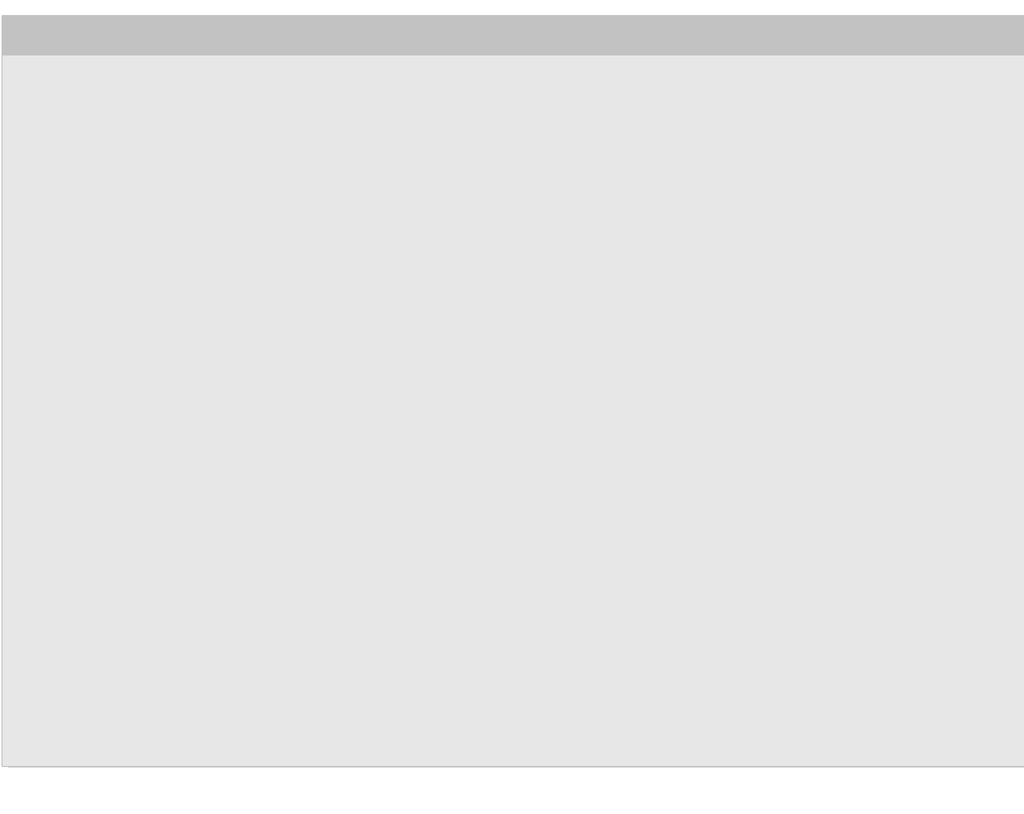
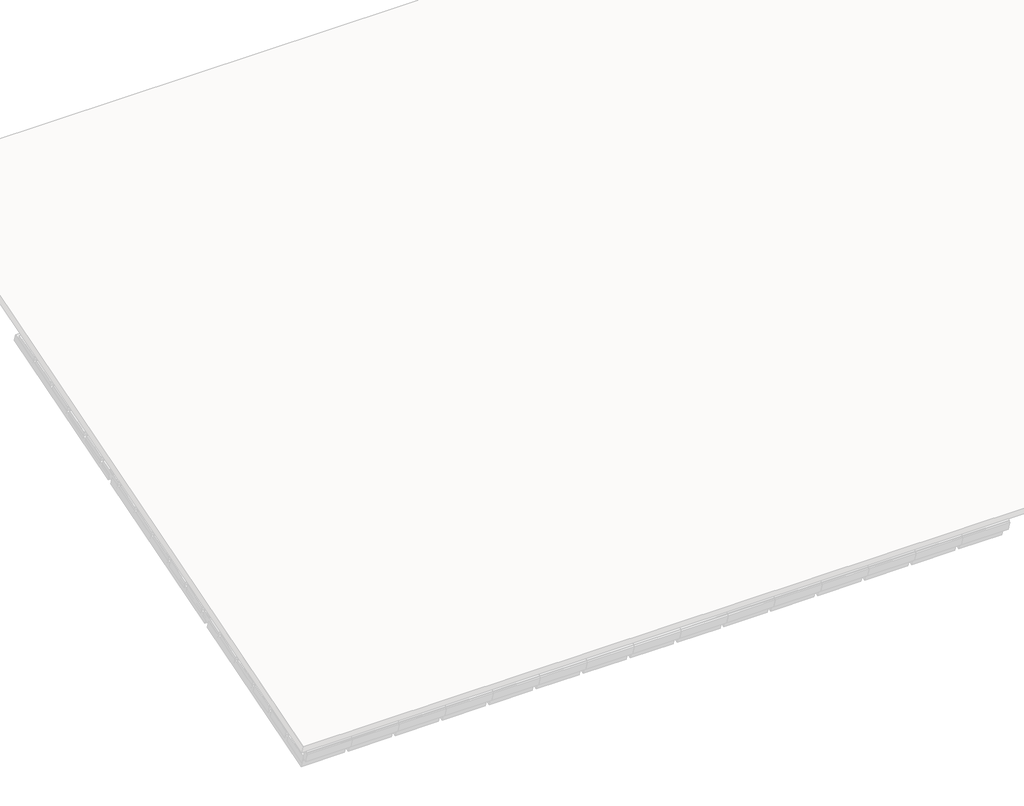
# One storey, part 10 of 57: 84 members, 40 plates.
"""IFC4 building model written with IfcOpenShell, lengths in millimetres."""

from ifc_helpers import new_model, si_unit, origin, place, context, project, spatial, transform, mapped, element, save
from components import rectangular_mullion_59984080, rectangular_mullion_2d2423ea, rectangular_mullion_caibro_e4384bba, rectangular_mullion_caibro_0993a3cf, empty_system_panel_vazio_178faf58, empty_system_panel_vazio_2c78850d

model = new_model("IFC4")

# Units and contexts
model_context = context("Model", 3, world=origin())
ifc_project = project(units=[si_unit("LENGTHUNIT", "METRE", prefix="MILLI")], contexts=[model_context])

# Site, building, storey
site = spatial("IfcSite", under=ifc_project)
building = spatial("IfcBuilding", under=site)
storey = spatial("IfcBuildingStorey", under=building, Name="Nível 2", Elevation=4100.0)

# Members
placement = place(None, origin())
rectangular_mullion_shape = rectangular_mullion_59984080(model_context)
element("IfcMember", 1, ObjectType="Rectangular Mullion : Ripa", at=placement, inside=storey, context=model_context, shape_type="MappedRepresentation", body=[
    mapped(rectangular_mullion_shape, transform((5359.0091907, 8162.5832694, 3598.8241594), x_axis=(0.0, 0.9578262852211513, 0.2873478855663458), y_axis=(0.0, 0.2873478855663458, -0.9578262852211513), z_axis=(-1.0, 0.0, 0.0))),
])
element("IfcMember", 2, ObjectType="Rectangular Mullion : Ripa", at=placement, inside=storey, context=model_context, shape_type="MappedRepresentation", body=[
    mapped(rectangular_mullion_shape, transform((5956.0639471, 8162.5832694, 3598.8241594), x_axis=(0.0, 0.9578262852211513, 0.2873478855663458), y_axis=(0.0, 0.2873478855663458, -0.9578262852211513), z_axis=(-1.0, 0.0, 0.0))),
])
element("IfcMember", 3, ObjectType="Rectangular Mullion : Ripa", at=placement, inside=storey, context=model_context, shape_type="MappedRepresentation", body=[
    mapped(rectangular_mullion_shape, transform((6553.1187036, 8162.5832694, 3598.8241594), x_axis=(0.0, 0.9578262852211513, 0.2873478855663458), y_axis=(0.0, 0.2873478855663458, -0.9578262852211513), z_axis=(-1.0, 0.0, 0.0))),
])
element("IfcMember", 4, ObjectType="Rectangular Mullion : Ripa", at=placement, inside=storey, context=model_context, shape_type="MappedRepresentation", body=[
    mapped(rectangular_mullion_shape, transform((7150.17346, 8162.5832694, 3598.8241594), x_axis=(0.0, 0.9578262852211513, 0.2873478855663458), y_axis=(0.0, 0.2873478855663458, -0.9578262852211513), z_axis=(-1.0, 0.0, 0.0))),
])
element("IfcMember", 5, ObjectType="Rectangular Mullion : Ripa", at=placement, inside=storey, context=model_context, shape_type="MappedRepresentation", body=[
    mapped(rectangular_mullion_shape, transform((7747.2282164, 8162.5832694, 3598.8241594), x_axis=(0.0, 0.9578262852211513, 0.2873478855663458), y_axis=(0.0, 0.2873478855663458, -0.9578262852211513), z_axis=(-1.0, 0.0, 0.0))),
])
element("IfcMember", 6, ObjectType="Rectangular Mullion : Ripa", at=placement, inside=storey, context=model_context, shape_type="MappedRepresentation", body=[
    mapped(rectangular_mullion_shape, transform((5359.0091907, 8532.7605281, 3709.877337), x_axis=(0.0, 0.9578262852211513, 0.2873478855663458), y_axis=(0.0, 0.2873478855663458, -0.9578262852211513), z_axis=(-1.0, 0.0, 0.0))),
])
element("IfcMember", 7, ObjectType="Rectangular Mullion : Ripa", at=placement, inside=storey, context=model_context, shape_type="MappedRepresentation", body=[
    mapped(rectangular_mullion_shape, transform((5956.0639471, 8532.7605281, 3709.877337), x_axis=(0.0, 0.9578262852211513, 0.2873478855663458), y_axis=(0.0, 0.2873478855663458, -0.9578262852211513), z_axis=(-1.0, 0.0, 0.0))),
])
element("IfcMember", 8, ObjectType="Rectangular Mullion : Ripa", at=placement, inside=storey, context=model_context, shape_type="MappedRepresentation", body=[
    mapped(rectangular_mullion_shape, transform((6553.1187036, 8532.7605281, 3709.877337), x_axis=(0.0, 0.9578262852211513, 0.2873478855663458), y_axis=(0.0, 0.2873478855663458, -0.9578262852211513), z_axis=(-1.0, 0.0, 0.0))),
])
element("IfcMember", 9, ObjectType="Rectangular Mullion : Ripa", at=placement, inside=storey, context=model_context, shape_type="MappedRepresentation", body=[
    mapped(rectangular_mullion_shape, transform((7150.17346, 8532.7605281, 3709.877337), x_axis=(0.0, 0.9578262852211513, 0.2873478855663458), y_axis=(0.0, 0.2873478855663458, -0.9578262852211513), z_axis=(-1.0, 0.0, 0.0))),
])
element("IfcMember", 10, ObjectType="Rectangular Mullion : Ripa", at=placement, inside=storey, context=model_context, shape_type="MappedRepresentation", body=[
    mapped(rectangular_mullion_shape, transform((7747.2282164, 8532.7605281, 3709.877337), x_axis=(0.0, 0.9578262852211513, 0.2873478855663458), y_axis=(0.0, 0.2873478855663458, -0.9578262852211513), z_axis=(-1.0, 0.0, 0.0))),
])
element("IfcMember", 11, ObjectType="Rectangular Mullion : Ripa", at=placement, inside=storey, context=model_context, shape_type="MappedRepresentation", body=[
    mapped(rectangular_mullion_shape, transform((5359.0091907, 8902.9377868, 3820.9305146), x_axis=(0.0, 0.9578262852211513, 0.2873478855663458), y_axis=(0.0, 0.2873478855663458, -0.9578262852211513), z_axis=(-1.0, 0.0, 0.0))),
])
element("IfcMember", 12, ObjectType="Rectangular Mullion : Ripa", at=placement, inside=storey, context=model_context, shape_type="MappedRepresentation", body=[
    mapped(rectangular_mullion_shape, transform((5956.0639471, 8902.9377868, 3820.9305146), x_axis=(0.0, 0.9578262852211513, 0.2873478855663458), y_axis=(0.0, 0.2873478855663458, -0.9578262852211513), z_axis=(-1.0, 0.0, 0.0))),
])
element("IfcMember", 13, ObjectType="Rectangular Mullion : Ripa", at=placement, inside=storey, context=model_context, shape_type="MappedRepresentation", body=[
    mapped(rectangular_mullion_shape, transform((6553.1187036, 8902.9377868, 3820.9305146), x_axis=(0.0, 0.9578262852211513, 0.2873478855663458), y_axis=(0.0, 0.2873478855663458, -0.9578262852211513), z_axis=(-1.0, 0.0, 0.0))),
])
element("IfcMember", 14, ObjectType="Rectangular Mullion : Ripa", at=placement, inside=storey, context=model_context, shape_type="MappedRepresentation", body=[
    mapped(rectangular_mullion_shape, transform((7150.17346, 8902.9377868, 3820.9305146), x_axis=(0.0, 0.9578262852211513, 0.2873478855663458), y_axis=(0.0, 0.2873478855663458, -0.9578262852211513), z_axis=(-1.0, 0.0, 0.0))),
])
element("IfcMember", 15, ObjectType="Rectangular Mullion : Ripa", at=placement, inside=storey, context=model_context, shape_type="MappedRepresentation", body=[
    mapped(rectangular_mullion_shape, transform((7747.2282164, 8902.9377868, 3820.9305146), x_axis=(0.0, 0.9578262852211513, 0.2873478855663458), y_axis=(0.0, 0.2873478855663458, -0.9578262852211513), z_axis=(-1.0, 0.0, 0.0))),
])
element("IfcMember", 16, ObjectType="Rectangular Mullion : Ripa", at=placement, inside=storey, context=model_context, shape_type="MappedRepresentation", body=[
    mapped(rectangular_mullion_shape, transform((4164.8996779, 9273.1150454, 3931.9836922), x_axis=(0.0, 0.9578262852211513, 0.2873478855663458), y_axis=(0.0, 0.2873478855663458, -0.9578262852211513), z_axis=(-1.0, 0.0, 0.0))),
])
element("IfcMember", 17, ObjectType="Rectangular Mullion : Ripa", at=placement, inside=storey, context=model_context, shape_type="MappedRepresentation", body=[
    mapped(rectangular_mullion_shape, transform((4761.9544343, 9273.1150454, 3931.9836922), x_axis=(0.0, 0.9578262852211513, 0.2873478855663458), y_axis=(0.0, 0.2873478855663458, -0.9578262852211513), z_axis=(-1.0, 0.0, 0.0))),
])
element("IfcMember", 18, ObjectType="Rectangular Mullion : Ripa", at=placement, inside=storey, context=model_context, shape_type="MappedRepresentation", body=[
    mapped(rectangular_mullion_shape, transform((5359.0091907, 9273.1150454, 3931.9836922), x_axis=(0.0, 0.9578262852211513, 0.2873478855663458), y_axis=(0.0, 0.2873478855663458, -0.9578262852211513), z_axis=(-1.0, 0.0, 0.0))),
])
element("IfcMember", 19, ObjectType="Rectangular Mullion : Ripa", at=placement, inside=storey, context=model_context, shape_type="MappedRepresentation", body=[
    mapped(rectangular_mullion_shape, transform((5956.0639471, 9273.1150454, 3931.9836922), x_axis=(0.0, 0.9578262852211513, 0.2873478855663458), y_axis=(0.0, 0.2873478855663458, -0.9578262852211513), z_axis=(-1.0, 0.0, 0.0))),
])
element("IfcMember", 20, ObjectType="Rectangular Mullion : Ripa", at=placement, inside=storey, context=model_context, shape_type="MappedRepresentation", body=[
    mapped(rectangular_mullion_shape, transform((6553.1187036, 9273.1150454, 3931.9836922), x_axis=(0.0, 0.9578262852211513, 0.2873478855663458), y_axis=(0.0, 0.2873478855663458, -0.9578262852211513), z_axis=(-1.0, 0.0, 0.0))),
])
element("IfcMember", 21, ObjectType="Rectangular Mullion : Ripa", at=placement, inside=storey, context=model_context, shape_type="MappedRepresentation", body=[
    mapped(rectangular_mullion_shape, transform((7150.17346, 9273.1150454, 3931.9836922), x_axis=(0.0, 0.9578262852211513, 0.2873478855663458), y_axis=(0.0, 0.2873478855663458, -0.9578262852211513), z_axis=(-1.0, 0.0, 0.0))),
])
element("IfcMember", 22, ObjectType="Rectangular Mullion : Ripa", at=placement, inside=storey, context=model_context, shape_type="MappedRepresentation", body=[
    mapped(rectangular_mullion_shape, transform((7747.2282164, 9273.1150454, 3931.9836922), x_axis=(0.0, 0.9578262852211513, 0.2873478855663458), y_axis=(0.0, 0.2873478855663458, -0.9578262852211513), z_axis=(-1.0, 0.0, 0.0))),
])
element("IfcMember", 23, ObjectType="Rectangular Mullion : Ripa", at=placement, inside=storey, context=model_context, shape_type="MappedRepresentation", body=[
    mapped(rectangular_mullion_shape, transform((4164.8996779, 9643.2923041, 4043.0368698), x_axis=(0.0, 0.9578262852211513, 0.2873478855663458), y_axis=(0.0, 0.2873478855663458, -0.9578262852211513), z_axis=(-1.0, 0.0, 0.0))),
])
element("IfcMember", 24, ObjectType="Rectangular Mullion : Ripa", at=placement, inside=storey, context=model_context, shape_type="MappedRepresentation", body=[
    mapped(rectangular_mullion_shape, transform((4761.9544343, 9643.2923041, 4043.0368698), x_axis=(0.0, 0.9578262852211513, 0.2873478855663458), y_axis=(0.0, 0.2873478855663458, -0.9578262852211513), z_axis=(-1.0, 0.0, 0.0))),
])
element("IfcMember", 25, ObjectType="Rectangular Mullion : Ripa", at=placement, inside=storey, context=model_context, shape_type="MappedRepresentation", body=[
    mapped(rectangular_mullion_shape, transform((5359.0091907, 9643.2923041, 4043.0368698), x_axis=(0.0, 0.9578262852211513, 0.2873478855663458), y_axis=(0.0, 0.2873478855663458, -0.9578262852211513), z_axis=(-1.0, 0.0, 0.0))),
])
element("IfcMember", 26, ObjectType="Rectangular Mullion : Ripa", at=placement, inside=storey, context=model_context, shape_type="MappedRepresentation", body=[
    mapped(rectangular_mullion_shape, transform((5956.0639471, 9643.2923041, 4043.0368698), x_axis=(0.0, 0.9578262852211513, 0.2873478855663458), y_axis=(0.0, 0.2873478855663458, -0.9578262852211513), z_axis=(-1.0, 0.0, 0.0))),
])
element("IfcMember", 27, ObjectType="Rectangular Mullion : Ripa", at=placement, inside=storey, context=model_context, shape_type="MappedRepresentation", body=[
    mapped(rectangular_mullion_shape, transform((6553.1187036, 9643.2923041, 4043.0368698), x_axis=(0.0, 0.9578262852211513, 0.2873478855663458), y_axis=(0.0, 0.2873478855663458, -0.9578262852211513), z_axis=(-1.0, 0.0, 0.0))),
])
element("IfcMember", 28, ObjectType="Rectangular Mullion : Ripa", at=placement, inside=storey, context=model_context, shape_type="MappedRepresentation", body=[
    mapped(rectangular_mullion_shape, transform((7150.17346, 9643.2923041, 4043.0368698), x_axis=(0.0, 0.9578262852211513, 0.2873478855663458), y_axis=(0.0, 0.2873478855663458, -0.9578262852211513), z_axis=(-1.0, 0.0, 0.0))),
])
element("IfcMember", 29, ObjectType="Rectangular Mullion : Ripa", at=placement, inside=storey, context=model_context, shape_type="MappedRepresentation", body=[
    mapped(rectangular_mullion_shape, transform((7747.2282164, 9643.2923041, 4043.0368698), x_axis=(0.0, 0.9578262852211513, 0.2873478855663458), y_axis=(0.0, 0.2873478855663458, -0.9578262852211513), z_axis=(-1.0, 0.0, 0.0))),
])
element("IfcMember", 30, ObjectType="Rectangular Mullion : Ripa", at=placement, inside=storey, context=model_context, shape_type="MappedRepresentation", body=[
    mapped(rectangular_mullion_shape, transform((4164.8996779, 10013.4695628, 4154.0900474), x_axis=(0.0, 0.9578262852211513, 0.2873478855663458), y_axis=(0.0, 0.2873478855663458, -0.9578262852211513), z_axis=(-1.0, 0.0, 0.0))),
])
element("IfcMember", 31, ObjectType="Rectangular Mullion : Ripa", at=placement, inside=storey, context=model_context, shape_type="MappedRepresentation", body=[
    mapped(rectangular_mullion_shape, transform((4761.9544343, 10013.4695628, 4154.0900474), x_axis=(0.0, 0.9578262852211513, 0.2873478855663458), y_axis=(0.0, 0.2873478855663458, -0.9578262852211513), z_axis=(-1.0, 0.0, 0.0))),
])
element("IfcMember", 32, ObjectType="Rectangular Mullion : Ripa", at=placement, inside=storey, context=model_context, shape_type="MappedRepresentation", body=[
    mapped(rectangular_mullion_shape, transform((4164.8996779, 10383.6468214, 4265.143225), x_axis=(0.0, 0.9578262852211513, 0.2873478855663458), y_axis=(0.0, 0.2873478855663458, -0.9578262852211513), z_axis=(-1.0, 0.0, 0.0))),
])
element("IfcMember", 33, ObjectType="Rectangular Mullion : Ripa", at=placement, inside=storey, context=model_context, shape_type="MappedRepresentation", body=[
    mapped(rectangular_mullion_shape, transform((4761.9544343, 10383.6468214, 4265.143225), x_axis=(0.0, 0.9578262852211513, 0.2873478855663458), y_axis=(0.0, 0.2873478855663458, -0.9578262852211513), z_axis=(-1.0, 0.0, 0.0))),
])
element("IfcMember", 34, ObjectType="Rectangular Mullion : Ripa", at=placement, inside=storey, context=model_context, shape_type="MappedRepresentation", body=[
    mapped(rectangular_mullion_shape, transform((4164.8996779, 10753.8240801, 4376.1964026), x_axis=(0.0, 0.9578262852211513, 0.2873478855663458), y_axis=(0.0, 0.2873478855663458, -0.9578262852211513), z_axis=(-1.0, 0.0, 0.0))),
])
element("IfcMember", 35, ObjectType="Rectangular Mullion : Ripa", at=placement, inside=storey, context=model_context, shape_type="MappedRepresentation", body=[
    mapped(rectangular_mullion_shape, transform((4761.9544343, 10753.8240801, 4376.1964026), x_axis=(0.0, 0.9578262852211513, 0.2873478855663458), y_axis=(0.0, 0.2873478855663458, -0.9578262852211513), z_axis=(-1.0, 0.0, 0.0))),
])
rectangular_mullion_2_shape = rectangular_mullion_2d2423ea(model_context)
element("IfcMember", 36, ObjectType="Rectangular Mullion : Terça", at=placement, inside=storey, context=model_context, shape_type="MappedRepresentation", body=[
    mapped(rectangular_mullion_2_shape, transform((4164.8996779, 9159.0196393, 3835.1132313), x_axis=(0.0, 0.9578262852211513, 0.2873478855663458), y_axis=(0.0, 0.2873478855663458, -0.9578262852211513), z_axis=(-1.0, 0.0, 0.0))),
])
element("IfcMember", 37, ObjectType="Rectangular Mullion : Terça", at=placement, inside=storey, context=model_context, shape_type="MappedRepresentation", body=[
    mapped(rectangular_mullion_2_shape, transform((4761.9544343, 9159.0196393, 3835.1132313), x_axis=(0.0, 0.9578262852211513, 0.2873478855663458), y_axis=(0.0, 0.2873478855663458, -0.9578262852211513), z_axis=(-1.0, 0.0, 0.0))),
])
element("IfcMember", 38, ObjectType="Rectangular Mullion : Terça", at=placement, inside=storey, context=model_context, shape_type="MappedRepresentation", body=[
    mapped(rectangular_mullion_2_shape, transform((5359.0091907, 9159.0196393, 3835.1132313), x_axis=(0.0, 0.9578262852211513, 0.2873478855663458), y_axis=(0.0, 0.2873478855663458, -0.9578262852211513), z_axis=(-1.0, 0.0, 0.0))),
])
element("IfcMember", 39, ObjectType="Rectangular Mullion : Terça", at=placement, inside=storey, context=model_context, shape_type="MappedRepresentation", body=[
    mapped(rectangular_mullion_2_shape, transform((5956.0639471, 9159.0196393, 3835.1132313), x_axis=(0.0, 0.9578262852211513, 0.2873478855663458), y_axis=(0.0, 0.2873478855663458, -0.9578262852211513), z_axis=(-1.0, 0.0, 0.0))),
])
element("IfcMember", 40, ObjectType="Rectangular Mullion : Terça", at=placement, inside=storey, context=model_context, shape_type="MappedRepresentation", body=[
    mapped(rectangular_mullion_2_shape, transform((6553.1187036, 9159.0196393, 3835.1132313), x_axis=(0.0, 0.9578262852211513, 0.2873478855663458), y_axis=(0.0, 0.2873478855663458, -0.9578262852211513), z_axis=(-1.0, 0.0, 0.0))),
])
element("IfcMember", 41, ObjectType="Rectangular Mullion : Terça", at=placement, inside=storey, context=model_context, shape_type="MappedRepresentation", body=[
    mapped(rectangular_mullion_2_shape, transform((7150.17346, 9159.0196393, 3835.1132313), x_axis=(0.0, 0.9578262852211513, 0.2873478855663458), y_axis=(0.0, 0.2873478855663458, -0.9578262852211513), z_axis=(-1.0, 0.0, 0.0))),
])
element("IfcMember", 42, ObjectType="Rectangular Mullion : Terça", at=placement, inside=storey, context=model_context, shape_type="MappedRepresentation", body=[
    mapped(rectangular_mullion_2_shape, transform((7747.2282164, 9159.0196393, 3835.1132313), x_axis=(0.0, 0.9578262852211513, 0.2873478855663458), y_axis=(0.0, 0.2873478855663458, -0.9578262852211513), z_axis=(-1.0, 0.0, 0.0))),
])
rectangular_mullion_caibro_shape = rectangular_mullion_caibro_e4384bba(model_context)
element("IfcMember", 43, ObjectType="Rectangular Mullion : Caibro", at=placement, inside=storey, context=model_context, shape_type="MappedRepresentation", body=[
    mapped(rectangular_mullion_caibro_shape, transform((4139.8996779, 9273.1150454, 3931.9836922), x_axis=(1.0, 0.0, 0.0), y_axis=(0.0, 0.2873478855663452, -0.9578262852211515), z_axis=(0.0, 0.9578262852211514, 0.28734788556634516))),
])
element("IfcMember", 44, ObjectType="Rectangular Mullion : Caibro", at=placement, inside=storey, context=model_context, shape_type="MappedRepresentation", body=[
    mapped(rectangular_mullion_caibro_shape, transform((4139.8996779, 9643.2923041, 4043.0368698), x_axis=(1.0, 0.0, 0.0), y_axis=(0.0, 0.2873478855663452, -0.9578262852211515), z_axis=(0.0, 0.9578262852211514, 0.28734788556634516))),
])
element("IfcMember", 45, ObjectType="Rectangular Mullion : Caibro", at=placement, inside=storey, context=model_context, shape_type="MappedRepresentation", body=[
    mapped(rectangular_mullion_caibro_shape, transform((4139.8996779, 10013.4695628, 4154.0900474), x_axis=(1.0, 0.0, 0.0), y_axis=(0.0, 0.28734788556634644, -0.9578262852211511), z_axis=(0.0, 0.957826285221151, 0.2873478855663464))),
])
element("IfcMember", 46, ObjectType="Rectangular Mullion : Caibro", at=placement, inside=storey, context=model_context, shape_type="MappedRepresentation", body=[
    mapped(rectangular_mullion_caibro_shape, transform((4139.8996779, 10383.6468214, 4265.143225), x_axis=(1.0, 0.0, 0.0), y_axis=(0.0, 0.28734788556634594, -0.9578262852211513), z_axis=(0.0, 0.9578262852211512, 0.2873478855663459))),
])
element("IfcMember", 47, ObjectType="Rectangular Mullion : Caibro", at=placement, inside=storey, context=model_context, shape_type="MappedRepresentation", body=[
    mapped(rectangular_mullion_caibro_shape, transform((4139.8996779, 10753.8240801, 4376.1964026), x_axis=(1.0, 0.0, 0.0), y_axis=(0.0, 0.28734788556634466, -0.9578262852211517), z_axis=(0.0, 0.9578262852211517, 0.28734788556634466))),
])
element("IfcMember", 48, ObjectType="Rectangular Mullion : Caibro", at=placement, inside=storey, context=model_context, shape_type="MappedRepresentation", body=[
    mapped(rectangular_mullion_caibro_shape, transform((4736.9544343, 9273.1150454, 3931.9836922), x_axis=(1.0, 0.0, 0.0), y_axis=(0.0, 0.2873478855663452, -0.9578262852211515), z_axis=(0.0, 0.9578262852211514, 0.28734788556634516))),
])
element("IfcMember", 49, ObjectType="Rectangular Mullion : Caibro", at=placement, inside=storey, context=model_context, shape_type="MappedRepresentation", body=[
    mapped(rectangular_mullion_caibro_shape, transform((4736.9544343, 9643.2923041, 4043.0368698), x_axis=(1.0, 0.0, 0.0), y_axis=(0.0, 0.2873478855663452, -0.9578262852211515), z_axis=(0.0, 0.9578262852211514, 0.28734788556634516))),
])
element("IfcMember", 50, ObjectType="Rectangular Mullion : Caibro", at=placement, inside=storey, context=model_context, shape_type="MappedRepresentation", body=[
    mapped(rectangular_mullion_caibro_shape, transform((4736.9544343, 10013.4695628, 4154.0900474), x_axis=(1.0, 0.0, 0.0), y_axis=(0.0, 0.28734788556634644, -0.9578262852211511), z_axis=(0.0, 0.957826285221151, 0.2873478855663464))),
])
element("IfcMember", 51, ObjectType="Rectangular Mullion : Caibro", at=placement, inside=storey, context=model_context, shape_type="MappedRepresentation", body=[
    mapped(rectangular_mullion_caibro_shape, transform((4736.9544343, 10383.6468214, 4265.143225), x_axis=(1.0, 0.0, 0.0), y_axis=(0.0, 0.28734788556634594, -0.9578262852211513), z_axis=(0.0, 0.9578262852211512, 0.2873478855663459))),
])
element("IfcMember", 52, ObjectType="Rectangular Mullion : Caibro", at=placement, inside=storey, context=model_context, shape_type="MappedRepresentation", body=[
    mapped(rectangular_mullion_caibro_shape, transform((4736.9544343, 10753.8240801, 4376.1964026), x_axis=(1.0, 0.0, 0.0), y_axis=(0.0, 0.28734788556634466, -0.9578262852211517), z_axis=(0.0, 0.9578262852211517, 0.28734788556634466))),
])
element("IfcMember", 53, ObjectType="Rectangular Mullion : Caibro", at=placement, inside=storey, context=model_context, shape_type="MappedRepresentation", body=[
    mapped(rectangular_mullion_caibro_shape, transform((5334.0091907, 8162.5832694, 3598.8241594), x_axis=(1.0, 0.0, 0.0), y_axis=(0.0, 0.28734788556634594, -0.9578262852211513), z_axis=(0.0, 0.9578262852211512, 0.2873478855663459))),
])
element("IfcMember", 54, ObjectType="Rectangular Mullion : Caibro", at=placement, inside=storey, context=model_context, shape_type="MappedRepresentation", body=[
    mapped(rectangular_mullion_caibro_shape, transform((5334.0091907, 8532.7605281, 3709.877337), x_axis=(1.0, 0.0, 0.0), y_axis=(0.0, 0.2873478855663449, -0.9578262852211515), z_axis=(0.0, 0.9578262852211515, 0.2873478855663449))),
])
element("IfcMember", 55, ObjectType="Rectangular Mullion : Caibro", at=placement, inside=storey, context=model_context, shape_type="MappedRepresentation", body=[
    mapped(rectangular_mullion_caibro_shape, transform((5334.0091907, 8902.9377868, 3820.9305146), x_axis=(1.0, 0.0, 0.0), y_axis=(0.0, 0.2873478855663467, -0.9578262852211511), z_axis=(0.0, 0.9578262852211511, 0.2873478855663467))),
])
element("IfcMember", 56, ObjectType="Rectangular Mullion : Caibro", at=placement, inside=storey, context=model_context, shape_type="MappedRepresentation", body=[
    mapped(rectangular_mullion_caibro_shape, transform((5334.0091907, 9273.1150454, 3931.9836922), x_axis=(1.0, 0.0, 0.0), y_axis=(0.0, 0.2873478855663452, -0.9578262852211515), z_axis=(0.0, 0.9578262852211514, 0.28734788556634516))),
])
element("IfcMember", 57, ObjectType="Rectangular Mullion : Caibro", at=placement, inside=storey, context=model_context, shape_type="MappedRepresentation", body=[
    mapped(rectangular_mullion_caibro_shape, transform((5334.0091907, 9643.2923041, 4043.0368698), x_axis=(1.0, 0.0, 0.0), y_axis=(0.0, 0.2873478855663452, -0.9578262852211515), z_axis=(0.0, 0.9578262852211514, 0.28734788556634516))),
])
element("IfcMember", 58, ObjectType="Rectangular Mullion : Caibro", at=placement, inside=storey, context=model_context, shape_type="MappedRepresentation", body=[
    mapped(rectangular_mullion_caibro_shape, transform((5931.0639471, 8162.5832694, 3598.8241594), x_axis=(1.0, 0.0, 0.0), y_axis=(0.0, 0.28734788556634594, -0.9578262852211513), z_axis=(0.0, 0.9578262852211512, 0.2873478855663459))),
])
element("IfcMember", 59, ObjectType="Rectangular Mullion : Caibro", at=placement, inside=storey, context=model_context, shape_type="MappedRepresentation", body=[
    mapped(rectangular_mullion_caibro_shape, transform((5931.0639471, 8532.7605281, 3709.877337), x_axis=(1.0, 0.0, 0.0), y_axis=(0.0, 0.2873478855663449, -0.9578262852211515), z_axis=(0.0, 0.9578262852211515, 0.2873478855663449))),
])
element("IfcMember", 60, ObjectType="Rectangular Mullion : Caibro", at=placement, inside=storey, context=model_context, shape_type="MappedRepresentation", body=[
    mapped(rectangular_mullion_caibro_shape, transform((5931.0639471, 8902.9377868, 3820.9305146), x_axis=(1.0, 0.0, 0.0), y_axis=(0.0, 0.2873478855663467, -0.9578262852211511), z_axis=(0.0, 0.9578262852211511, 0.2873478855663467))),
])
element("IfcMember", 61, ObjectType="Rectangular Mullion : Caibro", at=placement, inside=storey, context=model_context, shape_type="MappedRepresentation", body=[
    mapped(rectangular_mullion_caibro_shape, transform((5931.0639471, 9273.1150454, 3931.9836922), x_axis=(1.0, 0.0, 0.0), y_axis=(0.0, 0.2873478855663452, -0.9578262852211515), z_axis=(0.0, 0.9578262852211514, 0.28734788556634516))),
])
element("IfcMember", 62, ObjectType="Rectangular Mullion : Caibro", at=placement, inside=storey, context=model_context, shape_type="MappedRepresentation", body=[
    mapped(rectangular_mullion_caibro_shape, transform((5931.0639471, 9643.2923041, 4043.0368698), x_axis=(1.0, 0.0, 0.0), y_axis=(0.0, 0.2873478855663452, -0.9578262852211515), z_axis=(0.0, 0.9578262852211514, 0.28734788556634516))),
])
element("IfcMember", 63, ObjectType="Rectangular Mullion : Caibro", at=placement, inside=storey, context=model_context, shape_type="MappedRepresentation", body=[
    mapped(rectangular_mullion_caibro_shape, transform((6528.1187036, 8162.5832694, 3598.8241594), x_axis=(1.0, 0.0, 0.0), y_axis=(0.0, 0.28734788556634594, -0.9578262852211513), z_axis=(0.0, 0.9578262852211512, 0.2873478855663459))),
])
element("IfcMember", 64, ObjectType="Rectangular Mullion : Caibro", at=placement, inside=storey, context=model_context, shape_type="MappedRepresentation", body=[
    mapped(rectangular_mullion_caibro_shape, transform((6528.1187036, 8532.7605281, 3709.877337), x_axis=(1.0, 0.0, 0.0), y_axis=(0.0, 0.2873478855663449, -0.9578262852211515), z_axis=(0.0, 0.9578262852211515, 0.2873478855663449))),
])
element("IfcMember", 65, ObjectType="Rectangular Mullion : Caibro", at=placement, inside=storey, context=model_context, shape_type="MappedRepresentation", body=[
    mapped(rectangular_mullion_caibro_shape, transform((6528.1187036, 8902.9377868, 3820.9305146), x_axis=(1.0, 0.0, 0.0), y_axis=(0.0, 0.2873478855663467, -0.9578262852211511), z_axis=(0.0, 0.9578262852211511, 0.2873478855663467))),
])
element("IfcMember", 66, ObjectType="Rectangular Mullion : Caibro", at=placement, inside=storey, context=model_context, shape_type="MappedRepresentation", body=[
    mapped(rectangular_mullion_caibro_shape, transform((6528.1187036, 9273.1150454, 3931.9836922), x_axis=(1.0, 0.0, 0.0), y_axis=(0.0, 0.2873478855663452, -0.9578262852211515), z_axis=(0.0, 0.9578262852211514, 0.28734788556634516))),
])
element("IfcMember", 67, ObjectType="Rectangular Mullion : Caibro", at=placement, inside=storey, context=model_context, shape_type="MappedRepresentation", body=[
    mapped(rectangular_mullion_caibro_shape, transform((6528.1187036, 9643.2923041, 4043.0368698), x_axis=(1.0, 0.0, 0.0), y_axis=(0.0, 0.2873478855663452, -0.9578262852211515), z_axis=(0.0, 0.9578262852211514, 0.28734788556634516))),
])
element("IfcMember", 68, ObjectType="Rectangular Mullion : Caibro", at=placement, inside=storey, context=model_context, shape_type="MappedRepresentation", body=[
    mapped(rectangular_mullion_caibro_shape, transform((7125.17346, 8162.5832694, 3598.8241594), x_axis=(1.0, 0.0, 0.0), y_axis=(0.0, 0.28734788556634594, -0.9578262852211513), z_axis=(0.0, 0.9578262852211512, 0.2873478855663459))),
])
element("IfcMember", 69, ObjectType="Rectangular Mullion : Caibro", at=placement, inside=storey, context=model_context, shape_type="MappedRepresentation", body=[
    mapped(rectangular_mullion_caibro_shape, transform((7125.17346, 8532.7605281, 3709.877337), x_axis=(1.0, 0.0, 0.0), y_axis=(0.0, 0.2873478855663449, -0.9578262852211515), z_axis=(0.0, 0.9578262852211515, 0.2873478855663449))),
])
element("IfcMember", 70, ObjectType="Rectangular Mullion : Caibro", at=placement, inside=storey, context=model_context, shape_type="MappedRepresentation", body=[
    mapped(rectangular_mullion_caibro_shape, transform((7125.17346, 8902.9377868, 3820.9305146), x_axis=(1.0, 0.0, 0.0), y_axis=(0.0, 0.2873478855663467, -0.9578262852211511), z_axis=(0.0, 0.9578262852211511, 0.2873478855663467))),
])
element("IfcMember", 71, ObjectType="Rectangular Mullion : Caibro", at=placement, inside=storey, context=model_context, shape_type="MappedRepresentation", body=[
    mapped(rectangular_mullion_caibro_shape, transform((7125.17346, 9273.1150454, 3931.9836922), x_axis=(1.0, 0.0, 0.0), y_axis=(0.0, 0.2873478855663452, -0.9578262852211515), z_axis=(0.0, 0.9578262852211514, 0.28734788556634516))),
])
element("IfcMember", 72, ObjectType="Rectangular Mullion : Caibro", at=placement, inside=storey, context=model_context, shape_type="MappedRepresentation", body=[
    mapped(rectangular_mullion_caibro_shape, transform((7125.17346, 9643.2923041, 4043.0368698), x_axis=(1.0, 0.0, 0.0), y_axis=(0.0, 0.2873478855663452, -0.9578262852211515), z_axis=(0.0, 0.9578262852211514, 0.28734788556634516))),
])
element("IfcMember", 73, ObjectType="Rectangular Mullion : Caibro", at=placement, inside=storey, context=model_context, shape_type="MappedRepresentation", body=[
    mapped(rectangular_mullion_caibro_shape, transform((7722.2282164, 8162.5832694, 3598.8241594), x_axis=(1.0, 0.0, 0.0), y_axis=(0.0, 0.2873478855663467, -0.9578262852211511), z_axis=(0.0, 0.9578262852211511, 0.2873478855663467))),
])
element("IfcMember", 74, ObjectType="Rectangular Mullion : Caibro", at=placement, inside=storey, context=model_context, shape_type="MappedRepresentation", body=[
    mapped(rectangular_mullion_caibro_shape, transform((7722.2282164, 8532.7605281, 3709.877337), x_axis=(1.0, 0.0, 0.0), y_axis=(0.0, 0.2873478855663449, -0.9578262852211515), z_axis=(0.0, 0.9578262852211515, 0.2873478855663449))),
])
element("IfcMember", 75, ObjectType="Rectangular Mullion : Caibro", at=placement, inside=storey, context=model_context, shape_type="MappedRepresentation", body=[
    mapped(rectangular_mullion_caibro_shape, transform((7722.2282164, 8902.9377868, 3820.9305146), x_axis=(1.0, 0.0, 0.0), y_axis=(0.0, 0.2873478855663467, -0.9578262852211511), z_axis=(0.0, 0.9578262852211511, 0.2873478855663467))),
])
element("IfcMember", 76, ObjectType="Rectangular Mullion : Caibro", at=placement, inside=storey, context=model_context, shape_type="MappedRepresentation", body=[
    mapped(rectangular_mullion_caibro_shape, transform((7722.2282164, 9273.1150454, 3931.9836922), x_axis=(1.0, 0.0, 0.0), y_axis=(0.0, 0.2873478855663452, -0.9578262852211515), z_axis=(0.0, 0.9578262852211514, 0.28734788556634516))),
])
element("IfcMember", 77, ObjectType="Rectangular Mullion : Caibro", at=placement, inside=storey, context=model_context, shape_type="MappedRepresentation", body=[
    mapped(rectangular_mullion_caibro_shape, transform((7722.2282164, 9643.2923041, 4043.0368698), x_axis=(1.0, 0.0, 0.0), y_axis=(0.0, 0.28734788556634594, -0.9578262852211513), z_axis=(0.0, 0.9578262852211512, 0.2873478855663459))),
])
rectangular_mullion_caibro_2_shape = rectangular_mullion_caibro_0993a3cf(model_context)
element("IfcMember", 78, ObjectType="Rectangular Mullion : Caibro", at=placement, inside=storey, context=model_context, shape_type="MappedRepresentation", body=[
    mapped(rectangular_mullion_caibro_2_shape, transform((4139.8996779, 9159.0196393, 3835.1132313), x_axis=(1.0, 0.0, 0.0), y_axis=(0.0, 0.2873478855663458, -0.9578262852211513), z_axis=(0.0, 0.9578262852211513, 0.2873478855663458))),
])
element("IfcMember", 79, ObjectType="Rectangular Mullion : Caibro", at=placement, inside=storey, context=model_context, shape_type="MappedRepresentation", body=[
    mapped(rectangular_mullion_caibro_2_shape, transform((4736.9544343, 9159.0196393, 3835.1132313), x_axis=(1.0, 0.0, 0.0), y_axis=(0.0, 0.2873478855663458, -0.9578262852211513), z_axis=(0.0, 0.9578262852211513, 0.2873478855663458))),
])
element("IfcMember", 80, ObjectType="Rectangular Mullion : Caibro", at=placement, inside=storey, context=model_context, shape_type="MappedRepresentation", body=[
    mapped(rectangular_mullion_caibro_2_shape, transform((5334.0091907, 9159.0196393, 3835.1132313), x_axis=(1.0, 0.0, 0.0), y_axis=(0.0, 0.2873478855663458, -0.9578262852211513), z_axis=(0.0, 0.9578262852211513, 0.2873478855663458))),
])
element("IfcMember", 81, ObjectType="Rectangular Mullion : Caibro", at=placement, inside=storey, context=model_context, shape_type="MappedRepresentation", body=[
    mapped(rectangular_mullion_caibro_2_shape, transform((5931.0639471, 9159.0196393, 3835.1132313), x_axis=(1.0, 0.0, 0.0), y_axis=(0.0, 0.2873478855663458, -0.9578262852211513), z_axis=(0.0, 0.9578262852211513, 0.2873478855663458))),
])
element("IfcMember", 82, ObjectType="Rectangular Mullion : Caibro", at=placement, inside=storey, context=model_context, shape_type="MappedRepresentation", body=[
    mapped(rectangular_mullion_caibro_2_shape, transform((6528.1187036, 9159.0196393, 3835.1132313), x_axis=(1.0, 0.0, 0.0), y_axis=(0.0, 0.2873478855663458, -0.9578262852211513), z_axis=(0.0, 0.9578262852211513, 0.2873478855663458))),
])
element("IfcMember", 83, ObjectType="Rectangular Mullion : Caibro", at=placement, inside=storey, context=model_context, shape_type="MappedRepresentation", body=[
    mapped(rectangular_mullion_caibro_2_shape, transform((7125.17346, 9159.0196393, 3835.1132313), x_axis=(1.0, 0.0, 0.0), y_axis=(0.0, 0.2873478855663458, -0.9578262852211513), z_axis=(0.0, 0.9578262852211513, 0.2873478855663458))),
])
element("IfcMember", 84, ObjectType="Rectangular Mullion : Caibro", at=placement, inside=storey, context=model_context, shape_type="MappedRepresentation", body=[
    mapped(rectangular_mullion_caibro_2_shape, transform((7722.2282164, 9159.0196393, 3835.1132313), x_axis=(1.0, 0.0, 0.0), y_axis=(0.0, 0.2873478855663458, -0.9578262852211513), z_axis=(0.0, 0.9578262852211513, 0.2873478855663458))),
])

# Plates
empty_system_panel_vazio_shape = empty_system_panel_vazio_178faf58(model_context)
element("IfcPlate", 85, ObjectType="Empty System Panel : Vazio", at=placement, inside=storey, context=model_context, shape_type="MappedRepresentation", body=[
    mapped(empty_system_panel_vazio_shape, transform((5035.4818125, 8162.5832694, 3598.8241594), x_axis=(1.0, 0.0, 0.0), y_axis=(0.0, 0.2873478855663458, -0.9578262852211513), z_axis=(0.0, 0.9578262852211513, 0.2873478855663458))),
])
element("IfcPlate", 86, ObjectType="Empty System Panel : Vazio", at=placement, inside=storey, context=model_context, shape_type="MappedRepresentation", body=[
    mapped(empty_system_panel_vazio_shape, transform((5632.5365689, 8162.5832694, 3598.8241594), x_axis=(1.0, 0.0, 0.0), y_axis=(0.0, 0.2873478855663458, -0.9578262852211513), z_axis=(0.0, 0.9578262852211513, 0.2873478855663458))),
])
element("IfcPlate", 87, ObjectType="Empty System Panel : Vazio", at=placement, inside=storey, context=model_context, shape_type="MappedRepresentation", body=[
    mapped(empty_system_panel_vazio_shape, transform((6229.5913253, 8162.5832694, 3598.8241594), x_axis=(1.0, 0.0, 0.0), y_axis=(0.0, 0.2873478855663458, -0.9578262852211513), z_axis=(0.0, 0.9578262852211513, 0.2873478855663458))),
])
element("IfcPlate", 88, ObjectType="Empty System Panel : Vazio", at=placement, inside=storey, context=model_context, shape_type="MappedRepresentation", body=[
    mapped(empty_system_panel_vazio_shape, transform((6826.6460818, 8162.5832694, 3598.8241594), x_axis=(1.0, 0.0, 0.0), y_axis=(0.0, 0.2873478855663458, -0.9578262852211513), z_axis=(0.0, 0.9578262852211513, 0.2873478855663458))),
])
element("IfcPlate", 89, ObjectType="Empty System Panel : Vazio", at=placement, inside=storey, context=model_context, shape_type="MappedRepresentation", body=[
    mapped(empty_system_panel_vazio_shape, transform((7423.7008382, 8162.5832694, 3598.8241594), x_axis=(1.0, 0.0, 0.0), y_axis=(0.0, 0.2873478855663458, -0.9578262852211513), z_axis=(0.0, 0.9578262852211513, 0.2873478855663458))),
])
element("IfcPlate", 90, ObjectType="Empty System Panel : Vazio", at=placement, inside=storey, context=model_context, shape_type="MappedRepresentation", body=[
    mapped(empty_system_panel_vazio_shape, transform((5035.4818125, 8532.7605281, 3709.877337), x_axis=(1.0, 0.0, 0.0), y_axis=(0.0, 0.2873478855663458, -0.9578262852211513), z_axis=(0.0, 0.9578262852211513, 0.2873478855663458))),
])
element("IfcPlate", 91, ObjectType="Empty System Panel : Vazio", at=placement, inside=storey, context=model_context, shape_type="MappedRepresentation", body=[
    mapped(empty_system_panel_vazio_shape, transform((5632.5365689, 8532.7605281, 3709.877337), x_axis=(1.0, 0.0, 0.0), y_axis=(0.0, 0.2873478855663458, -0.9578262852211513), z_axis=(0.0, 0.9578262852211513, 0.2873478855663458))),
])
element("IfcPlate", 92, ObjectType="Empty System Panel : Vazio", at=placement, inside=storey, context=model_context, shape_type="MappedRepresentation", body=[
    mapped(empty_system_panel_vazio_shape, transform((6229.5913253, 8532.7605281, 3709.877337), x_axis=(1.0, 0.0, 0.0), y_axis=(0.0, 0.2873478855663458, -0.9578262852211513), z_axis=(0.0, 0.9578262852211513, 0.2873478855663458))),
])
element("IfcPlate", 93, ObjectType="Empty System Panel : Vazio", at=placement, inside=storey, context=model_context, shape_type="MappedRepresentation", body=[
    mapped(empty_system_panel_vazio_shape, transform((6826.6460818, 8532.7605281, 3709.877337), x_axis=(1.0, 0.0, 0.0), y_axis=(0.0, 0.2873478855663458, -0.9578262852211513), z_axis=(0.0, 0.9578262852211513, 0.2873478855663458))),
])
element("IfcPlate", 94, ObjectType="Empty System Panel : Vazio", at=placement, inside=storey, context=model_context, shape_type="MappedRepresentation", body=[
    mapped(empty_system_panel_vazio_shape, transform((7423.7008382, 8532.7605281, 3709.877337), x_axis=(1.0, 0.0, 0.0), y_axis=(0.0, 0.2873478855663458, -0.9578262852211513), z_axis=(0.0, 0.9578262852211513, 0.2873478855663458))),
])
element("IfcPlate", 95, ObjectType="Empty System Panel : Vazio", at=placement, inside=storey, context=model_context, shape_type="MappedRepresentation", body=[
    mapped(empty_system_panel_vazio_shape, transform((5035.4818125, 8902.9377868, 3820.9305146), x_axis=(1.0, 0.0, 0.0), y_axis=(0.0, 0.2873478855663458, -0.9578262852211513), z_axis=(0.0, 0.9578262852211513, 0.2873478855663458))),
])
element("IfcPlate", 96, ObjectType="Empty System Panel : Vazio", at=placement, inside=storey, context=model_context, shape_type="MappedRepresentation", body=[
    mapped(empty_system_panel_vazio_shape, transform((5632.5365689, 8902.9377868, 3820.9305146), x_axis=(1.0, 0.0, 0.0), y_axis=(0.0, 0.2873478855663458, -0.9578262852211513), z_axis=(0.0, 0.9578262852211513, 0.2873478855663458))),
])
element("IfcPlate", 97, ObjectType="Empty System Panel : Vazio", at=placement, inside=storey, context=model_context, shape_type="MappedRepresentation", body=[
    mapped(empty_system_panel_vazio_shape, transform((6229.5913253, 8902.9377868, 3820.9305146), x_axis=(1.0, 0.0, 0.0), y_axis=(0.0, 0.2873478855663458, -0.9578262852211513), z_axis=(0.0, 0.9578262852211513, 0.2873478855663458))),
])
element("IfcPlate", 98, ObjectType="Empty System Panel : Vazio", at=placement, inside=storey, context=model_context, shape_type="MappedRepresentation", body=[
    mapped(empty_system_panel_vazio_shape, transform((6826.6460818, 8902.9377868, 3820.9305146), x_axis=(1.0, 0.0, 0.0), y_axis=(0.0, 0.2873478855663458, -0.9578262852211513), z_axis=(0.0, 0.9578262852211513, 0.2873478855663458))),
])
element("IfcPlate", 99, ObjectType="Empty System Panel : Vazio", at=placement, inside=storey, context=model_context, shape_type="MappedRepresentation", body=[
    mapped(empty_system_panel_vazio_shape, transform((7423.7008382, 8902.9377868, 3820.9305146), x_axis=(1.0, 0.0, 0.0), y_axis=(0.0, 0.2873478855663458, -0.9578262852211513), z_axis=(0.0, 0.9578262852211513, 0.2873478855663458))),
])
element("IfcPlate", 100, ObjectType="Empty System Panel : Vazio", at=placement, inside=storey, context=model_context, shape_type="MappedRepresentation", body=[
    mapped(empty_system_panel_vazio_shape, transform((4438.4270561, 9273.1150454, 3931.9836922), x_axis=(1.0, 0.0, 0.0), y_axis=(0.0, 0.2873478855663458, -0.9578262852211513), z_axis=(0.0, 0.9578262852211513, 0.2873478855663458))),
])
element("IfcPlate", 101, ObjectType="Empty System Panel : Vazio", at=placement, inside=storey, context=model_context, shape_type="MappedRepresentation", body=[
    mapped(empty_system_panel_vazio_shape, transform((5035.4818125, 9273.1150454, 3931.9836922), x_axis=(1.0, 0.0, 0.0), y_axis=(0.0, 0.2873478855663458, -0.9578262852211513), z_axis=(0.0, 0.9578262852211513, 0.2873478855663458))),
])
element("IfcPlate", 102, ObjectType="Empty System Panel : Vazio", at=placement, inside=storey, context=model_context, shape_type="MappedRepresentation", body=[
    mapped(empty_system_panel_vazio_shape, transform((5632.5365689, 9273.1150454, 3931.9836922), x_axis=(1.0, 0.0, 0.0), y_axis=(0.0, 0.2873478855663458, -0.9578262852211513), z_axis=(0.0, 0.9578262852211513, 0.2873478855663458))),
])
element("IfcPlate", 103, ObjectType="Empty System Panel : Vazio", at=placement, inside=storey, context=model_context, shape_type="MappedRepresentation", body=[
    mapped(empty_system_panel_vazio_shape, transform((6229.5913253, 9273.1150454, 3931.9836922), x_axis=(1.0, 0.0, 0.0), y_axis=(0.0, 0.2873478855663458, -0.9578262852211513), z_axis=(0.0, 0.9578262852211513, 0.2873478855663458))),
])
element("IfcPlate", 104, ObjectType="Empty System Panel : Vazio", at=placement, inside=storey, context=model_context, shape_type="MappedRepresentation", body=[
    mapped(empty_system_panel_vazio_shape, transform((6826.6460818, 9273.1150454, 3931.9836922), x_axis=(1.0, 0.0, 0.0), y_axis=(0.0, 0.2873478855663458, -0.9578262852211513), z_axis=(0.0, 0.9578262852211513, 0.2873478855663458))),
])
element("IfcPlate", 105, ObjectType="Empty System Panel : Vazio", at=placement, inside=storey, context=model_context, shape_type="MappedRepresentation", body=[
    mapped(empty_system_panel_vazio_shape, transform((7423.7008382, 9273.1150454, 3931.9836922), x_axis=(1.0, 0.0, 0.0), y_axis=(0.0, 0.2873478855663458, -0.9578262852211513), z_axis=(0.0, 0.9578262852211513, 0.2873478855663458))),
])
element("IfcPlate", 106, ObjectType="Empty System Panel : Vazio", at=placement, inside=storey, context=model_context, shape_type="MappedRepresentation", body=[
    mapped(empty_system_panel_vazio_shape, transform((4438.4270561, 9643.2923041, 4043.0368698), x_axis=(1.0, 0.0, 0.0), y_axis=(0.0, 0.2873478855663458, -0.9578262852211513), z_axis=(0.0, 0.9578262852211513, 0.2873478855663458))),
])
element("IfcPlate", 107, ObjectType="Empty System Panel : Vazio", at=placement, inside=storey, context=model_context, shape_type="MappedRepresentation", body=[
    mapped(empty_system_panel_vazio_shape, transform((5035.4818125, 9643.2923041, 4043.0368698), x_axis=(1.0, 0.0, 0.0), y_axis=(0.0, 0.2873478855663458, -0.9578262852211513), z_axis=(0.0, 0.9578262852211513, 0.2873478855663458))),
])
element("IfcPlate", 108, ObjectType="Empty System Panel : Vazio", at=placement, inside=storey, context=model_context, shape_type="MappedRepresentation", body=[
    mapped(empty_system_panel_vazio_shape, transform((5632.5365689, 9643.2923041, 4043.0368698), x_axis=(1.0, 0.0, 0.0), y_axis=(0.0, 0.2873478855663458, -0.9578262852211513), z_axis=(0.0, 0.9578262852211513, 0.2873478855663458))),
])
element("IfcPlate", 109, ObjectType="Empty System Panel : Vazio", at=placement, inside=storey, context=model_context, shape_type="MappedRepresentation", body=[
    mapped(empty_system_panel_vazio_shape, transform((6229.5913253, 9643.2923041, 4043.0368698), x_axis=(1.0, 0.0, 0.0), y_axis=(0.0, 0.2873478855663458, -0.9578262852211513), z_axis=(0.0, 0.9578262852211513, 0.2873478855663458))),
])
element("IfcPlate", 110, ObjectType="Empty System Panel : Vazio", at=placement, inside=storey, context=model_context, shape_type="MappedRepresentation", body=[
    mapped(empty_system_panel_vazio_shape, transform((6826.6460818, 9643.2923041, 4043.0368698), x_axis=(1.0, 0.0, 0.0), y_axis=(0.0, 0.2873478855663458, -0.9578262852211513), z_axis=(0.0, 0.9578262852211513, 0.2873478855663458))),
])
element("IfcPlate", 111, ObjectType="Empty System Panel : Vazio", at=placement, inside=storey, context=model_context, shape_type="MappedRepresentation", body=[
    mapped(empty_system_panel_vazio_shape, transform((7423.7008382, 9643.2923041, 4043.0368698), x_axis=(1.0, 0.0, 0.0), y_axis=(0.0, 0.2873478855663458, -0.9578262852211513), z_axis=(0.0, 0.9578262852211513, 0.2873478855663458))),
])
element("IfcPlate", 112, ObjectType="Empty System Panel : Vazio", at=placement, inside=storey, context=model_context, shape_type="MappedRepresentation", body=[
    mapped(empty_system_panel_vazio_shape, transform((4438.4270561, 10013.4695628, 4154.0900474), x_axis=(1.0, 0.0, 0.0), y_axis=(0.0, 0.2873478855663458, -0.9578262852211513), z_axis=(0.0, 0.9578262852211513, 0.2873478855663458))),
])
element("IfcPlate", 113, ObjectType="Empty System Panel : Vazio", at=placement, inside=storey, context=model_context, shape_type="MappedRepresentation", body=[
    mapped(empty_system_panel_vazio_shape, transform((5035.4818125, 10013.4695628, 4154.0900474), x_axis=(1.0, 0.0, 0.0), y_axis=(0.0, 0.2873478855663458, -0.9578262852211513), z_axis=(0.0, 0.9578262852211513, 0.2873478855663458))),
])
element("IfcPlate", 114, ObjectType="Empty System Panel : Vazio", at=placement, inside=storey, context=model_context, shape_type="MappedRepresentation", body=[
    mapped(empty_system_panel_vazio_shape, transform((5632.5365689, 10013.4695628, 4154.0900474), x_axis=(1.0, 0.0, 0.0), y_axis=(0.0, 0.2873478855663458, -0.9578262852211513), z_axis=(0.0, 0.9578262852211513, 0.2873478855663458))),
])
element("IfcPlate", 115, ObjectType="Empty System Panel : Vazio", at=placement, inside=storey, context=model_context, shape_type="MappedRepresentation", body=[
    mapped(empty_system_panel_vazio_shape, transform((4438.4270561, 10383.6468214, 4265.143225), x_axis=(1.0, 0.0, 0.0), y_axis=(0.0, 0.2873478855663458, -0.9578262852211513), z_axis=(0.0, 0.9578262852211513, 0.2873478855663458))),
])
element("IfcPlate", 116, ObjectType="Empty System Panel : Vazio", at=placement, inside=storey, context=model_context, shape_type="MappedRepresentation", body=[
    mapped(empty_system_panel_vazio_shape, transform((5035.4818125, 10383.6468214, 4265.143225), x_axis=(1.0, 0.0, 0.0), y_axis=(0.0, 0.2873478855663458, -0.9578262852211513), z_axis=(0.0, 0.9578262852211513, 0.2873478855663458))),
])
element("IfcPlate", 117, ObjectType="Empty System Panel : Vazio", at=placement, inside=storey, context=model_context, shape_type="MappedRepresentation", body=[
    mapped(empty_system_panel_vazio_shape, transform((5632.5365689, 10383.6468214, 4265.143225), x_axis=(1.0, 0.0, 0.0), y_axis=(0.0, 0.2873478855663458, -0.9578262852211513), z_axis=(0.0, 0.9578262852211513, 0.2873478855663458))),
])
element("IfcPlate", 118, ObjectType="Empty System Panel : Vazio", at=placement, inside=storey, context=model_context, shape_type="MappedRepresentation", body=[
    mapped(empty_system_panel_vazio_shape, transform((4438.4270561, 10753.8240801, 4376.1964026), x_axis=(1.0, 0.0, 0.0), y_axis=(0.0, 0.2873478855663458, -0.9578262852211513), z_axis=(0.0, 0.9578262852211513, 0.2873478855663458))),
])
empty_system_panel_vazio_2_shape = empty_system_panel_vazio_2c78850d(model_context)
element("IfcPlate", 119, ObjectType="Empty System Panel : Vazio", at=placement, inside=storey, context=model_context, shape_type="MappedRepresentation", body=[
    mapped(empty_system_panel_vazio_2_shape, transform((4438.4270561, 9187.7544279, 3843.7336679), x_axis=(1.0, 0.0, 0.0), y_axis=(0.0, 0.2873478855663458, -0.9578262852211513), z_axis=(0.0, 0.9578262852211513, 0.2873478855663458))),
])
element("IfcPlate", 120, ObjectType="Empty System Panel : Vazio", at=placement, inside=storey, context=model_context, shape_type="MappedRepresentation", body=[
    mapped(empty_system_panel_vazio_2_shape, transform((5035.4818125, 9187.7544279, 3843.7336679), x_axis=(1.0, 0.0, 0.0), y_axis=(0.0, 0.2873478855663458, -0.9578262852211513), z_axis=(0.0, 0.9578262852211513, 0.2873478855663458))),
])
element("IfcPlate", 121, ObjectType="Empty System Panel : Vazio", at=placement, inside=storey, context=model_context, shape_type="MappedRepresentation", body=[
    mapped(empty_system_panel_vazio_2_shape, transform((5632.5365689, 9187.7544279, 3843.7336679), x_axis=(1.0, 0.0, 0.0), y_axis=(0.0, 0.2873478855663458, -0.9578262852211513), z_axis=(0.0, 0.9578262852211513, 0.2873478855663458))),
])
element("IfcPlate", 122, ObjectType="Empty System Panel : Vazio", at=placement, inside=storey, context=model_context, shape_type="MappedRepresentation", body=[
    mapped(empty_system_panel_vazio_2_shape, transform((6229.5913253, 9187.7544279, 3843.7336679), x_axis=(1.0, 0.0, 0.0), y_axis=(0.0, 0.2873478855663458, -0.9578262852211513), z_axis=(0.0, 0.9578262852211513, 0.2873478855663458))),
])
element("IfcPlate", 123, ObjectType="Empty System Panel : Vazio", at=placement, inside=storey, context=model_context, shape_type="MappedRepresentation", body=[
    mapped(empty_system_panel_vazio_2_shape, transform((6826.6460818, 9187.7544279, 3843.7336679), x_axis=(1.0, 0.0, 0.0), y_axis=(0.0, 0.2873478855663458, -0.9578262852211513), z_axis=(0.0, 0.9578262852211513, 0.2873478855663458))),
])
element("IfcPlate", 124, ObjectType="Empty System Panel : Vazio", at=placement, inside=storey, context=model_context, shape_type="MappedRepresentation", body=[
    mapped(empty_system_panel_vazio_2_shape, transform((7423.7008382, 9187.7544279, 3843.7336679), x_axis=(1.0, 0.0, 0.0), y_axis=(0.0, 0.2873478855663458, -0.9578262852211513), z_axis=(0.0, 0.9578262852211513, 0.2873478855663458))),
])

save(model, "model.ifc")
